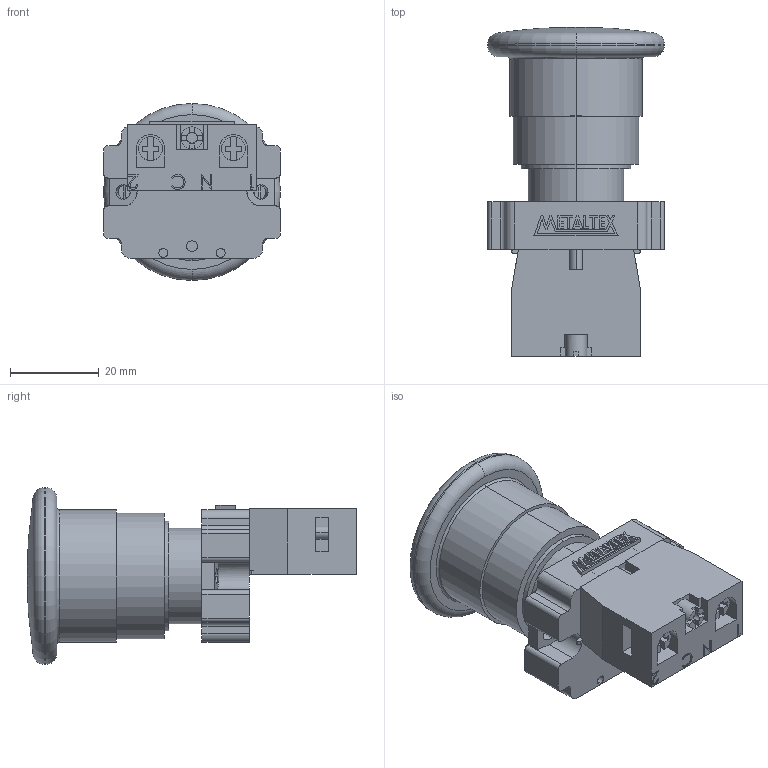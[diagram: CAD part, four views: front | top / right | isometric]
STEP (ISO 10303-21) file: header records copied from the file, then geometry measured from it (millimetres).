
FILE_DESCRIPTION (( 'STEP AP203' ), '1' );
FILE_NAME ('M20BER-R-1B.STEP', '2018-01-17T14:11:42', ( '' ), ( '' ), 'SwSTEP 2.0', 'SolidWorks 2012', '' );
FILE_SCHEMA (( 'CONFIG_CONTROL_DESIGN' ));
Length unit declared in the file: millimetre
Products named in the file (4): M20BER; M20-1B; METALTEX 18,98; M20BER-R-1B
Assembly tree (3 placements, depth 2):
  M20BER-R-1B
    M20BER
    M20-1B
    METALTEX 18,98
Bounding box: 40 x 74.5 x 40 mm (x, y, z)
Volume: 47370.9 mm3; surface area: 13353 mm2
Topology: 9 solids, 9 shells, 356 faces, 923 edges, 611 vertices
Faces by surface type: plane 254, cylinder 73, bspline 15, torus 10, sphere 4
Entity records: 12153 total; most frequent: CARTESIAN_POINT 2935, ORIENTED_EDGE 1846, DIRECTION 1773, EDGE_CURVE 923, VECTOR 691, LINE 691, VERTEX_POINT 611, AXIS2_PLACEMENT_3D 541
